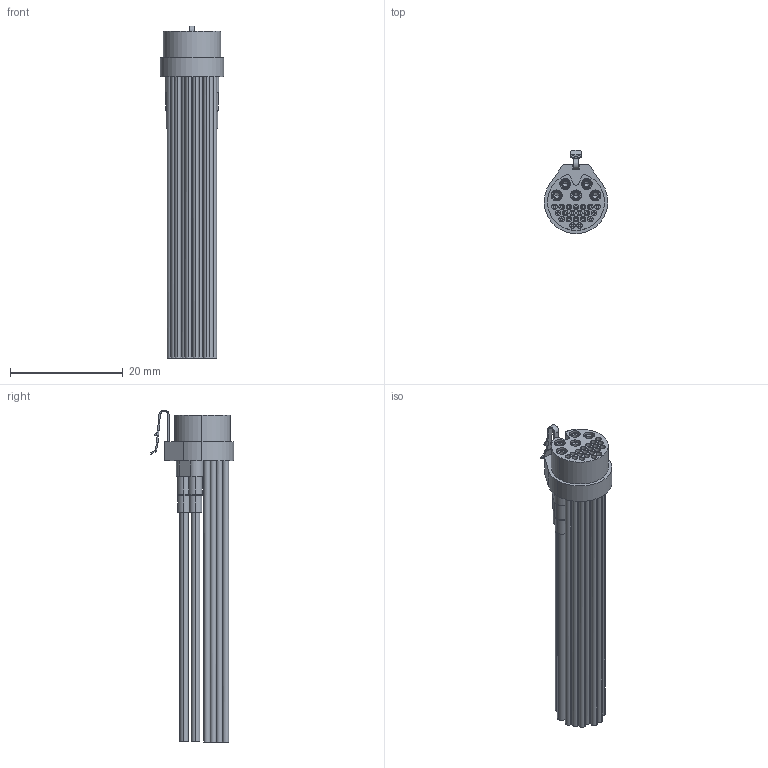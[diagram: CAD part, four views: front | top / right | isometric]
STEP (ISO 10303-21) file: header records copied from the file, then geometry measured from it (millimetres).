
FILE_DESCRIPTION (( 'STEP AP214' ), '1' );
FILE_NAME ('A90115-001 REV C.STEP', '2018-01-25T18:48:51', ( '' ), ( '' ), 'SwSTEP 2.0', 'SolidWorks 2017', '' );
FILE_SCHEMA (( 'AUTOMOTIVE_DESIGN' ));
Length unit declared in the file: inch
Products named in the file (1): A90115-001 REV_B
Bounding box: 11.3 x 14.82 x 58.9 mm (x, y, z)
Volume: 2114.3 mm3; surface area: 6576.8 mm2
Topology: 1 solids, 6 shells, 626 faces, 1339 edges, 845 vertices
Faces by surface type: cylinder 335, plane 206, cone 60, torus 20, bspline 5
Entity records: 17490 total; most frequent: CARTESIAN_POINT 3460, DIRECTION 3175, ORIENTED_EDGE 2658, EDGE_CURVE 1329, AXIS2_PLACEMENT_3D 1299, VERTEX_POINT 845, EDGE_LOOP 760, CIRCLE 677
